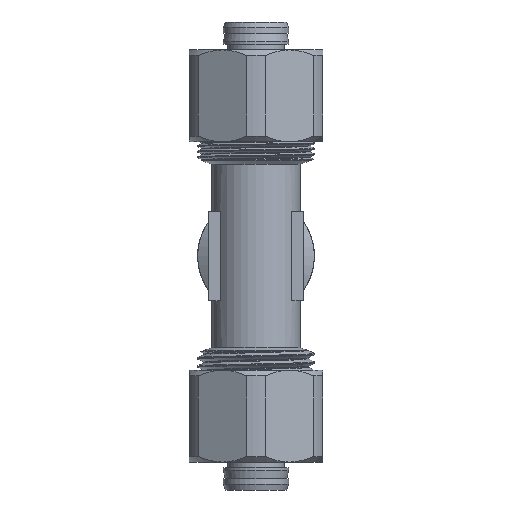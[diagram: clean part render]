
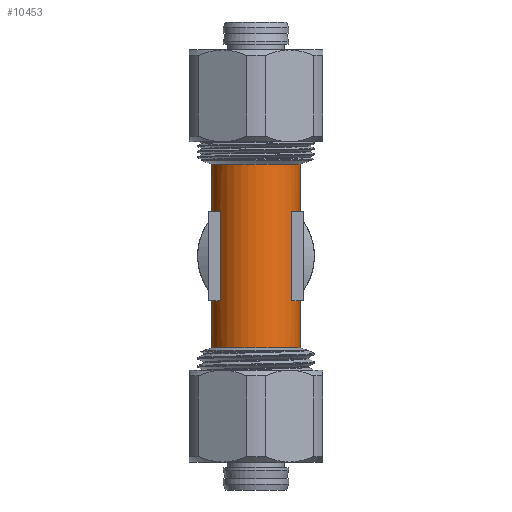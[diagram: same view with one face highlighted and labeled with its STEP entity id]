
A CAD part, front view. The second image highlights one B-rep face of the part: STEP entity #10453.
In plain terms, the highlighted cylindrical face has radius 8 mm (diameter 16 mm), a full revolution.
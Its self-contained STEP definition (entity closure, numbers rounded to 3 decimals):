
#148=B_SPLINE_CURVE_WITH_KNOTS('',3,(#14171,#14172,#14173,#14174,#14175,
#14176,#14177,#14178,#14179,#14180),.UNSPECIFIED.,.F.,.F.,(4,2,2,2,4),(1.465,
1.63,1.794,2.124,2.273),
 .UNSPECIFIED.);
#149=B_SPLINE_CURVE_WITH_KNOTS('',3,(#14181,#14182,#14183,#14184,#14185,
#14186,#14187,#14188,#14189,#14190),.UNSPECIFIED.,.F.,.F.,(4,2,2,2,4),(0.657,
0.806,1.135,1.3,1.465),
 .UNSPECIFIED.);
#150=B_SPLINE_CURVE_WITH_KNOTS('',3,(#14192,#14193,#14194,#14195,#14196,
#14197,#14198,#14199,#14200,#14201),.UNSPECIFIED.,.F.,.F.,(4,2,2,2,4),(-1.465,
-1.3,-1.135,-0.806,-0.657),
 .UNSPECIFIED.);
#151=B_SPLINE_CURVE_WITH_KNOTS('',3,(#14207,#14208,#14209,#14210,#14211,
#14212,#14213,#14214,#14215,#14216),.UNSPECIFIED.,.F.,.F.,(4,2,2,2,4),(-2.273,
-2.124,-1.794,-1.63,-1.465),
 .UNSPECIFIED.);
#1304=CYLINDRICAL_SURFACE('',#11192,8.);
#1478=FACE_OUTER_BOUND('',#2090,.T.);
#2090=EDGE_LOOP('',(#7464,#7465,#7466,#7467,#7468,#7469,#7470,#7471,#7472,
#7473,#7474,#7475,#7476,#7477,#7478,#7479,#7480,#7481,#7482,#7483,#7484));
#2770=LINE('',#14083,#3447);
#2773=LINE('',#14089,#3450);
#2780=LINE('',#14107,#3457);
#2783=LINE('',#14115,#3460);
#2797=LINE('',#14147,#3474);
#2799=LINE('',#14152,#3476);
#2813=LINE('',#14285,#3490);
#2814=LINE('',#14287,#3491);
#3447=VECTOR('',#11943,10.);
#3450=VECTOR('',#11948,10.);
#3457=VECTOR('',#11965,10.);
#3460=VECTOR('',#11972,10.);
#3474=VECTOR('',#12000,10.);
#3476=VECTOR('',#12006,10.);
#3490=VECTOR('',#12114,8.);
#3491=VECTOR('',#12115,8.);
#4034=CIRCLE('',#11125,8.);
#4035=CIRCLE('',#11127,8.);
#4036=CIRCLE('',#11131,8.);
#4037=CIRCLE('',#11133,8.);
#4054=CIRCLE('',#11174,8.);
#4067=CIRCLE('',#11193,8.);
#4068=CIRCLE('',#11194,8.);
#4384=VERTEX_POINT('',#14064);
#4385=VERTEX_POINT('',#14065);
#4388=VERTEX_POINT('',#14073);
#4389=VERTEX_POINT('',#14074);
#4392=VERTEX_POINT('',#14082);
#4394=VERTEX_POINT('',#14088);
#4396=VERTEX_POINT('',#14094);
#4398=VERTEX_POINT('',#14100);
#4400=VERTEX_POINT('',#14106);
#4403=VERTEX_POINT('',#14114);
#4414=VERTEX_POINT('',#14146);
#4415=VERTEX_POINT('',#14151);
#4420=VERTEX_POINT('',#14170);
#4421=VERTEX_POINT('',#14191);
#4436=VERTEX_POINT('',#14252);
#4448=VERTEX_POINT('',#14286);
#4449=VERTEX_POINT('',#14288);
#5532=EDGE_CURVE('',#4384,#4385,#4034,.T.);
#5536=EDGE_CURVE('',#4388,#4389,#4035,.T.);
#5540=EDGE_CURVE('',#4392,#4384,#2770,.T.);
#5543=EDGE_CURVE('',#4389,#4394,#2773,.T.);
#5546=EDGE_CURVE('',#4396,#4392,#4036,.T.);
#5549=EDGE_CURVE('',#4394,#4398,#4037,.T.);
#5552=EDGE_CURVE('',#4400,#4396,#2780,.T.);
#5556=EDGE_CURVE('',#4398,#4403,#2783,.T.);
#5572=EDGE_CURVE('',#4414,#4388,#2797,.T.);
#5575=EDGE_CURVE('',#4385,#4415,#2799,.T.);
#5584=EDGE_CURVE('',#4420,#4400,#148,.T.);
#5585=EDGE_CURVE('',#4403,#4420,#149,.T.);
#5586=EDGE_CURVE('',#4421,#4414,#150,.T.);
#5590=EDGE_CURVE('',#4415,#4421,#151,.T.);
#5607=EDGE_CURVE('',#4436,#4436,#4054,.T.);
#5622=EDGE_CURVE('',#4436,#4421,#2813,.T.);
#5623=EDGE_CURVE('',#4420,#4448,#2814,.T.);
#5624=EDGE_CURVE('',#4448,#4449,#4067,.T.);
#5625=EDGE_CURVE('',#4449,#4448,#4068,.T.);
#7464=ORIENTED_EDGE('',*,*,#5607,.F.);
#7465=ORIENTED_EDGE('',*,*,#5622,.T.);
#7466=ORIENTED_EDGE('',*,*,#5586,.T.);
#7467=ORIENTED_EDGE('',*,*,#5572,.T.);
#7468=ORIENTED_EDGE('',*,*,#5536,.T.);
#7469=ORIENTED_EDGE('',*,*,#5543,.T.);
#7470=ORIENTED_EDGE('',*,*,#5549,.T.);
#7471=ORIENTED_EDGE('',*,*,#5556,.T.);
#7472=ORIENTED_EDGE('',*,*,#5585,.T.);
#7473=ORIENTED_EDGE('',*,*,#5623,.T.);
#7474=ORIENTED_EDGE('',*,*,#5624,.T.);
#7475=ORIENTED_EDGE('',*,*,#5625,.T.);
#7476=ORIENTED_EDGE('',*,*,#5623,.F.);
#7477=ORIENTED_EDGE('',*,*,#5584,.T.);
#7478=ORIENTED_EDGE('',*,*,#5552,.T.);
#7479=ORIENTED_EDGE('',*,*,#5546,.T.);
#7480=ORIENTED_EDGE('',*,*,#5540,.T.);
#7481=ORIENTED_EDGE('',*,*,#5532,.T.);
#7482=ORIENTED_EDGE('',*,*,#5575,.T.);
#7483=ORIENTED_EDGE('',*,*,#5590,.T.);
#7484=ORIENTED_EDGE('',*,*,#5622,.F.);
#10453=ADVANCED_FACE('',(#1478),#1304,.T.);
#11125=AXIS2_PLACEMENT_3D('',#14066,#11929,#11930);
#11127=AXIS2_PLACEMENT_3D('',#14075,#11936,#11937);
#11131=AXIS2_PLACEMENT_3D('',#14095,#11953,#11954);
#11133=AXIS2_PLACEMENT_3D('',#14101,#11959,#11960);
#11174=AXIS2_PLACEMENT_3D('',#14253,#12074,#12075);
#11192=AXIS2_PLACEMENT_3D('',#14284,#12112,#12113);
#11193=AXIS2_PLACEMENT_3D('',#14289,#12116,#12117);
#11194=AXIS2_PLACEMENT_3D('',#14290,#12118,#12119);
#11929=DIRECTION('center_axis',(0.,0.,-1.));
#11930=DIRECTION('ref_axis',(0.,-1.,0.));
#11936=DIRECTION('center_axis',(0.,0.,-1.));
#11937=DIRECTION('ref_axis',(0.,-1.,0.));
#11943=DIRECTION('',(0.,0.,-1.));
#11948=DIRECTION('',(0.,0.,1.));
#11953=DIRECTION('center_axis',(0.,0.,1.));
#11954=DIRECTION('ref_axis',(0.,-1.,0.));
#11959=DIRECTION('center_axis',(0.,0.,1.));
#11960=DIRECTION('ref_axis',(0.,-1.,0.));
#11965=DIRECTION('',(0.,0.,1.));
#11972=DIRECTION('',(0.,0.,-1.));
#12000=DIRECTION('',(0.,0.,-1.));
#12006=DIRECTION('',(0.,0.,1.));
#12074=DIRECTION('center_axis',(0.,0.,-1.));
#12075=DIRECTION('ref_axis',(1.,0.,0.));
#12112=DIRECTION('center_axis',(0.,0.,-1.));
#12113=DIRECTION('ref_axis',(0.,-1.,0.));
#12114=DIRECTION('',(0.,0.,1.));
#12115=DIRECTION('',(0.,0.,1.));
#12116=DIRECTION('center_axis',(0.,0.,-1.));
#12117=DIRECTION('ref_axis',(1.,0.,0.));
#12118=DIRECTION('center_axis',(0.,0.,-1.));
#12119=DIRECTION('ref_axis',(1.,0.,0.));
#14064=CARTESIAN_POINT('',(-6.427,-4.764,-8.022));
#14065=CARTESIAN_POINT('',(-6.447,4.736,-8.022));
#14066=CARTESIAN_POINT('Origin',(0.,0.,-8.022));
#14073=CARTESIAN_POINT('',(6.447,4.736,-8.022));
#14074=CARTESIAN_POINT('',(6.427,-4.764,-8.022));
#14075=CARTESIAN_POINT('Origin',(0.,0.,-8.022));
#14082=CARTESIAN_POINT('',(-6.427,-4.764,7.978));
#14083=CARTESIAN_POINT('',(-6.427,-4.764,8.25));
#14088=CARTESIAN_POINT('',(6.427,-4.764,7.978));
#14089=CARTESIAN_POINT('',(6.427,-4.764,8.25));
#14094=CARTESIAN_POINT('',(-6.447,4.736,7.978));
#14095=CARTESIAN_POINT('Origin',(0.,0.,7.978));
#14100=CARTESIAN_POINT('',(6.447,4.736,7.978));
#14101=CARTESIAN_POINT('Origin',(0.,0.,7.978));
#14106=CARTESIAN_POINT('',(-6.447,4.736,4.986));
#14107=CARTESIAN_POINT('',(-6.447,4.736,8.25));
#14114=CARTESIAN_POINT('',(6.447,4.736,4.986));
#14115=CARTESIAN_POINT('',(6.447,4.736,8.25));
#14146=CARTESIAN_POINT('',(6.447,4.736,-4.986));
#14147=CARTESIAN_POINT('',(6.447,4.736,8.25));
#14151=CARTESIAN_POINT('',(-6.447,4.736,-4.986));
#14152=CARTESIAN_POINT('',(-6.447,4.736,8.25));
#14170=CARTESIAN_POINT('',(0.,8.,8.15));
#14171=CARTESIAN_POINT('Ctrl Pts',(0.,8.,
8.15));
#14172=CARTESIAN_POINT('Ctrl Pts',(-0.549,8.,
8.15));
#14173=CARTESIAN_POINT('Ctrl Pts',(-1.104,7.943,8.094));
#14174=CARTESIAN_POINT('Ctrl Pts',(-2.181,7.717,7.872));
#14175=CARTESIAN_POINT('Ctrl Pts',(-2.704,7.548,7.707));
#14176=CARTESIAN_POINT('Ctrl Pts',(-4.172,6.909,7.082));
#14177=CARTESIAN_POINT('Ctrl Pts',(-5.015,6.299,6.486));
#14178=CARTESIAN_POINT('Ctrl Pts',(-5.946,5.368,5.588));
#14179=CARTESIAN_POINT('Ctrl Pts',(-6.21,5.059,5.292));
#14180=CARTESIAN_POINT('Ctrl Pts',(-6.447,4.736,4.986));
#14181=CARTESIAN_POINT('Ctrl Pts',(6.447,4.736,4.986));
#14182=CARTESIAN_POINT('Ctrl Pts',(6.21,5.059,5.292));
#14183=CARTESIAN_POINT('Ctrl Pts',(5.946,5.368,5.588));
#14184=CARTESIAN_POINT('Ctrl Pts',(5.015,6.299,6.486));
#14185=CARTESIAN_POINT('Ctrl Pts',(4.172,6.909,7.082));
#14186=CARTESIAN_POINT('Ctrl Pts',(2.704,7.548,7.707));
#14187=CARTESIAN_POINT('Ctrl Pts',(2.181,7.717,7.872));
#14188=CARTESIAN_POINT('Ctrl Pts',(1.104,7.943,8.094));
#14189=CARTESIAN_POINT('Ctrl Pts',(0.549,8.,8.15));
#14190=CARTESIAN_POINT('Ctrl Pts',(0.,8.,
8.15));
#14191=CARTESIAN_POINT('',(0.,8.,-8.15));
#14192=CARTESIAN_POINT('Ctrl Pts',(0.,8.,-8.15));
#14193=CARTESIAN_POINT('Ctrl Pts',(0.549,8.,-8.15));
#14194=CARTESIAN_POINT('Ctrl Pts',(1.104,7.943,-8.094));
#14195=CARTESIAN_POINT('Ctrl Pts',(2.181,7.717,-7.872));
#14196=CARTESIAN_POINT('Ctrl Pts',(2.704,7.548,-7.707));
#14197=CARTESIAN_POINT('Ctrl Pts',(4.172,6.909,-7.082));
#14198=CARTESIAN_POINT('Ctrl Pts',(5.015,6.299,-6.486));
#14199=CARTESIAN_POINT('Ctrl Pts',(5.946,5.368,-5.588));
#14200=CARTESIAN_POINT('Ctrl Pts',(6.21,5.059,-5.292));
#14201=CARTESIAN_POINT('Ctrl Pts',(6.447,4.736,-4.986));
#14207=CARTESIAN_POINT('Ctrl Pts',(-6.447,4.736,-4.986));
#14208=CARTESIAN_POINT('Ctrl Pts',(-6.21,5.059,-5.292));
#14209=CARTESIAN_POINT('Ctrl Pts',(-5.946,5.368,-5.588));
#14210=CARTESIAN_POINT('Ctrl Pts',(-5.015,6.299,-6.486));
#14211=CARTESIAN_POINT('Ctrl Pts',(-4.172,6.909,-7.082));
#14212=CARTESIAN_POINT('Ctrl Pts',(-2.704,7.548,-7.707));
#14213=CARTESIAN_POINT('Ctrl Pts',(-2.181,7.717,-7.872));
#14214=CARTESIAN_POINT('Ctrl Pts',(-1.104,7.943,-8.094));
#14215=CARTESIAN_POINT('Ctrl Pts',(-0.549,8.,-8.15));
#14216=CARTESIAN_POINT('Ctrl Pts',(0.,8.,-8.15));
#14252=CARTESIAN_POINT('',(0.,8.,-16.5));
#14253=CARTESIAN_POINT('Origin',(0.,0.,-16.5));
#14284=CARTESIAN_POINT('Origin',(0.,0.,8.25));
#14285=CARTESIAN_POINT('',(0.,8.,8.25));
#14286=CARTESIAN_POINT('',(0.,8.,16.5));
#14287=CARTESIAN_POINT('',(0.,8.,8.25));
#14288=CARTESIAN_POINT('',(0.,-8.,16.5));
#14289=CARTESIAN_POINT('Origin',(0.,0.,16.5));
#14290=CARTESIAN_POINT('Origin',(0.,0.,16.5));
